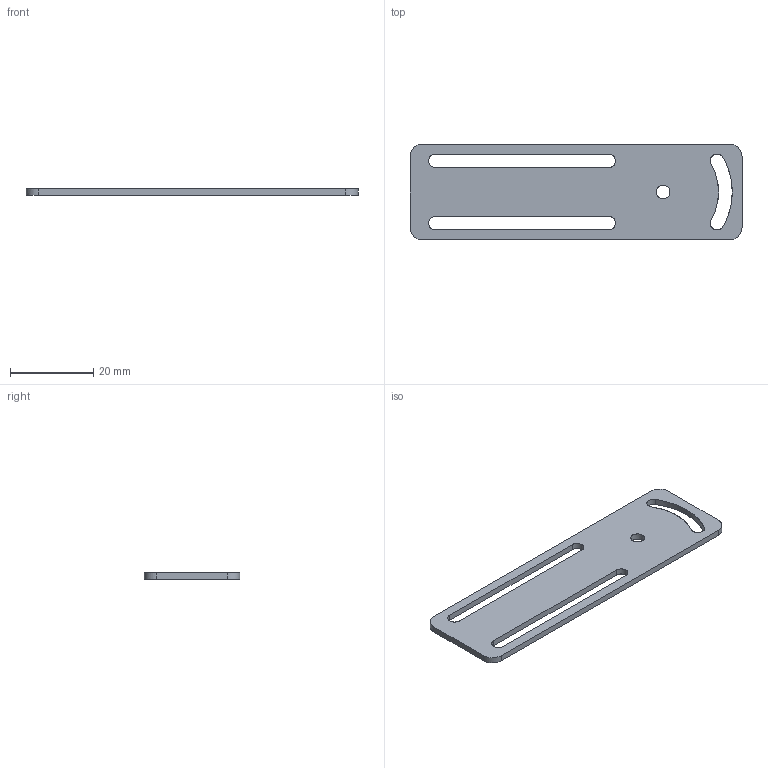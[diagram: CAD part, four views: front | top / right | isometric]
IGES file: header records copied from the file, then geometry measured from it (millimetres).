
Start section: C
Global section: file name: 11206748.igs; native system: By Siemens PLM Incorporated; preprocessor: XPlus GENERIC/IGES 19.0.9; author: Author; organization: Title; date: 20190109.145244; units: millimetre
Bounding box: 80 x 23 x 1.5 mm (x, y, z)
Surface area: 3602.8 mm2 (no closed solid volume)
Topology: 0 solids, 0 shells, 27 faces, 154 edges, 154 vertices
Faces by surface type: bspline 27
